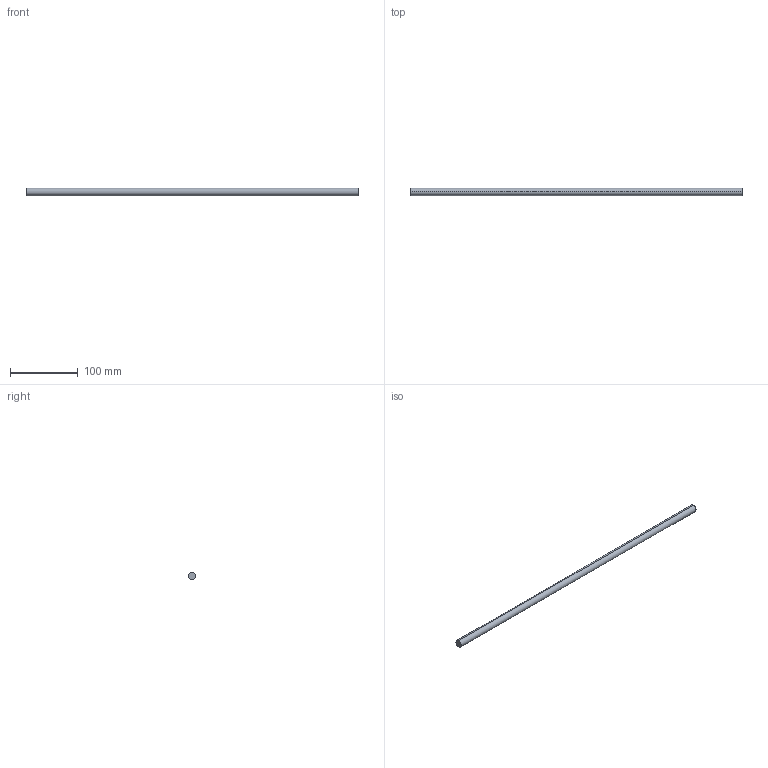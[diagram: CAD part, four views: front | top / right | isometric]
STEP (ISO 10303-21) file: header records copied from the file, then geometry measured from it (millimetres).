
FILE_DESCRIPTION (( 'STEP AP214' ), '1' );
FILE_NAME ('Querreling_Frontblende_Innenlade_KS-16_25mm-Halter_KAB-600.step', '2010-09-22T15:05:40', ( 'grass' ), ( '' ), 'SwSTEP 2.0', 'SolidWorks 2010', '' );
FILE_SCHEMA (( 'AUTOMOTIVE_DESIGN' ));
Length unit declared in the file: millimetre
Products named in the file (1): Querreling_Frontblende_Innenlade_KS-16_25mm-Halter_KAB-600
Bounding box: 490 x 11 x 11 mm (x, y, z)
Volume: 46566.3 mm3; surface area: 17123.3 mm2
Topology: 1 solids, 1 shells, 4 faces, 6 edges, 4 vertices
Faces by surface type: cylinder 2, plane 2
Entity records: 128 total; most frequent: DIRECTION 20, CARTESIAN_POINT 15, ORIENTED_EDGE 12, AXIS2_PLACEMENT_3D 9, EDGE_CURVE 6, FACE_OUTER_BOUND 4, EDGE_LOOP 4, CIRCLE 4
